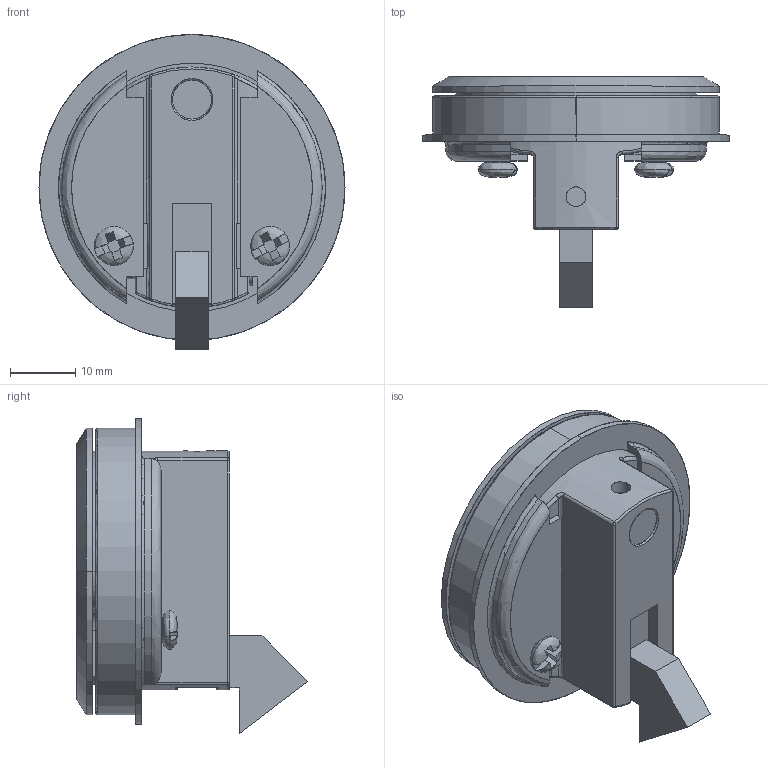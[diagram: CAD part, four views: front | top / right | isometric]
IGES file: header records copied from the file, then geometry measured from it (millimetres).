
Start section: SolidWorks IGES file using analytic representation for surfaces
Global section: file name: D:\尚坤工业图纸\SK1--门锁系列\SK1-070-2Z\SK1-070-2Z.IGS; native system: SolidWorks 2015; preprocessor: SolidWorks 2015; author: admin; date: 181101.103729; units: millimetre
Bounding box: 47 x 35.5 x 48.4 mm (x, y, z)
Surface area: 15669.2 mm2 (no closed solid volume)
Topology: 0 solids, 0 shells, 365 faces, 5279 edges, 5274 vertices
Faces by surface type: bspline 212, revolution 153
